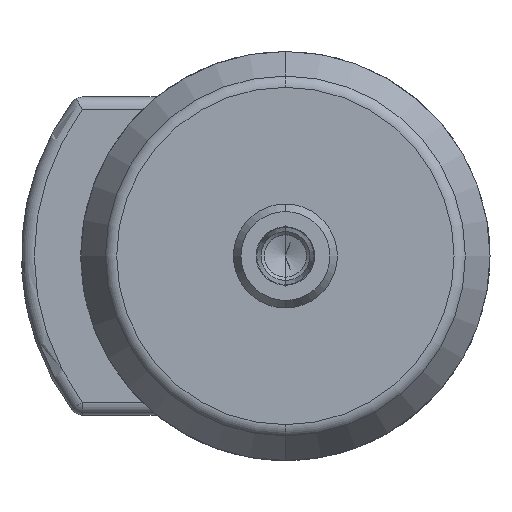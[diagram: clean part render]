
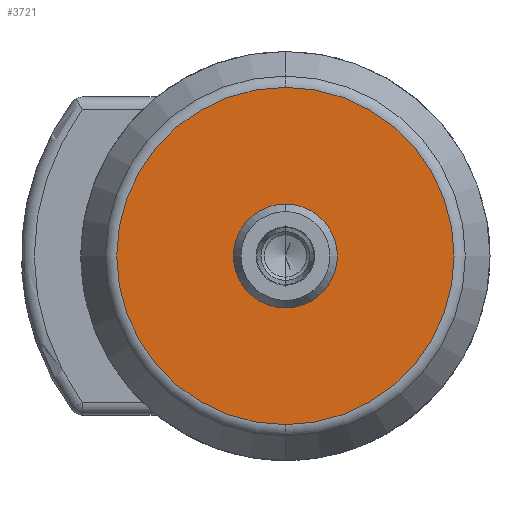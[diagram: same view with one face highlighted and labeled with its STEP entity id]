
A CAD part, front view. The second image highlights one B-rep face of the part: STEP entity #3721.
In plain terms, the highlighted planar face has unit normal (0, -1, 0).
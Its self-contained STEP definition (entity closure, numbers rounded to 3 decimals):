
#66 = DIRECTION ( 'NONE',  ( 0., 1., 0. ) ) ;
#84 = VERTEX_POINT ( 'NONE', #1442 ) ;
#373 = AXIS2_PLACEMENT_3D ( 'NONE', #4221, #5616, #776 ) ;
#428 = EDGE_CURVE ( 'NONE', #5716, #84, #4869, .T. ) ;
#634 = EDGE_LOOP ( 'NONE', ( #3285, #781 ) ) ;
#776 = DIRECTION ( 'NONE',  ( 0., 0., 1. ) ) ;
#781 = ORIENTED_EDGE ( 'NONE', *, *, #5239, .F. ) ;
#1185 = AXIS2_PLACEMENT_3D ( 'NONE', #4445, #5334, #4423 ) ;
#1442 = CARTESIAN_POINT ( 'NONE',  ( 0., 0., -25.969 ) ) ;
#1550 = VERTEX_POINT ( 'NONE', #2224 ) ;
#1694 = CARTESIAN_POINT ( 'NONE',  ( 0., 0., 0. ) ) ;
#1917 = DIRECTION ( 'NONE',  ( 0., 0., -1. ) ) ;
#2224 = CARTESIAN_POINT ( 'NONE',  ( 0., 0., 7.75 ) ) ;
#2311 = DIRECTION ( 'NONE',  ( 0., -1., 0. ) ) ;
#2456 = EDGE_CURVE ( 'NONE', #2549, #1550, #4515, .T. ) ;
#2549 = VERTEX_POINT ( 'NONE', #2599 ) ;
#2599 = CARTESIAN_POINT ( 'NONE',  ( 0., 0., -7.75 ) ) ;
#2694 = CIRCLE ( 'NONE', #4316, 25.969 ) ;
#2823 = DIRECTION ( 'NONE',  ( 0., 0., 1. ) ) ;
#2839 = AXIS2_PLACEMENT_3D ( 'NONE', #1694, #5776, #4404 ) ;
#3186 = EDGE_LOOP ( 'NONE', ( #3819, #4506 ) ) ;
#3285 = ORIENTED_EDGE ( 'NONE', *, *, #428, .F. ) ;
#3338 = CIRCLE ( 'NONE', #373, 7.75 ) ;
#3606 = CARTESIAN_POINT ( 'NONE',  ( 0., 0., 0. ) ) ;
#3721 = ADVANCED_FACE ( 'NONE', ( #4880, #4949 ), #4595, .T. ) ;
#3819 = ORIENTED_EDGE ( 'NONE', *, *, #4608, .T. ) ;
#4181 = CARTESIAN_POINT ( 'NONE',  ( 0., 0., 25.969 ) ) ;
#4221 = CARTESIAN_POINT ( 'NONE',  ( 0., 0., 0. ) ) ;
#4316 = AXIS2_PLACEMENT_3D ( 'NONE', #3606, #66, #2823 ) ;
#4404 = DIRECTION ( 'NONE',  ( 0., 0., 1. ) ) ;
#4423 = DIRECTION ( 'NONE',  ( 0., 0., 1. ) ) ;
#4445 = CARTESIAN_POINT ( 'NONE',  ( 0., 0., 0. ) ) ;
#4506 = ORIENTED_EDGE ( 'NONE', *, *, #2456, .T. ) ;
#4515 = CIRCLE ( 'NONE', #1185, 7.75 ) ;
#4595 = PLANE ( 'NONE',  #4687 ) ;
#4608 = EDGE_CURVE ( 'NONE', #1550, #2549, #3338, .T. ) ;
#4687 = AXIS2_PLACEMENT_3D ( 'NONE', #5481, #2311, #1917 ) ;
#4869 = CIRCLE ( 'NONE', #2839, 25.969 ) ;
#4880 = FACE_BOUND ( 'NONE', #3186, .T. ) ;
#4949 = FACE_OUTER_BOUND ( 'NONE', #634, .T. ) ;
#5239 = EDGE_CURVE ( 'NONE', #84, #5716, #2694, .T. ) ;
#5334 = DIRECTION ( 'NONE',  ( 0., 1., 0. ) ) ;
#5481 = CARTESIAN_POINT ( 'NONE',  ( 0., 0., 0. ) ) ;
#5616 = DIRECTION ( 'NONE',  ( 0., 1., 0. ) ) ;
#5716 = VERTEX_POINT ( 'NONE', #4181 ) ;
#5776 = DIRECTION ( 'NONE',  ( 0., 1., 0. ) ) ;
